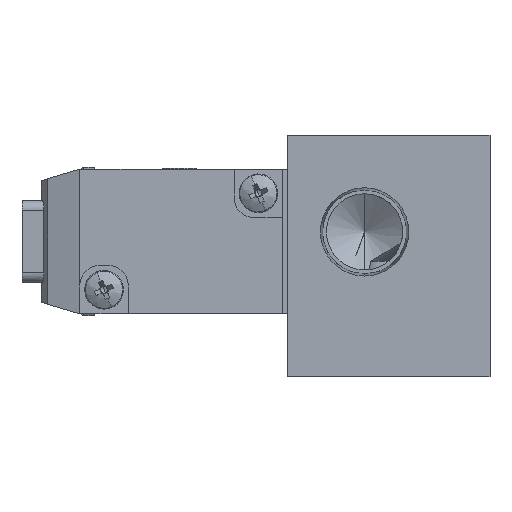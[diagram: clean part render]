
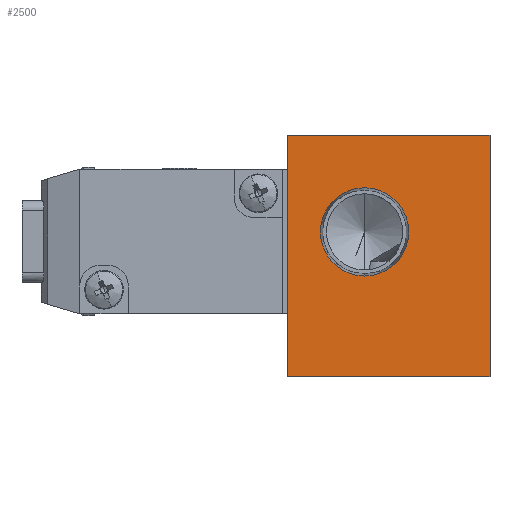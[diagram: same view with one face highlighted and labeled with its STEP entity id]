
A CAD part, left-side view. The second image highlights one B-rep face of the part: STEP entity #2500.
In plain terms, the highlighted planar face has unit normal (-1, 0, 0).
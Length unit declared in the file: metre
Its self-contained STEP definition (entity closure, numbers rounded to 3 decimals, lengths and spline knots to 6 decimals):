
#55 = CARTESIAN_POINT ( 'NONE',  ( -0.019, 0.0025, 0.005574 ) ) ;
#210 = ORIENTED_EDGE ( 'NONE', *, *, #1954, .F. ) ;
#378 = EDGE_CURVE ( 'NONE', #8396, #7512, #826, .T. ) ;
#782 = EDGE_LOOP ( 'NONE', ( #3010, #210, #7785, #7011 ) ) ;
#826 = CIRCLE ( 'NONE', #9155, 0.004574 ) ;
#842 = EDGE_CURVE ( 'NONE', #2309, #962, #9737, .T. ) ;
#962 = VERTEX_POINT ( 'NONE', #7399 ) ;
#1162 = LINE ( 'NONE', #4792, #7352 ) ;
#1568 = EDGE_CURVE ( 'NONE', #7512, #8396, #4120, .T. ) ;
#1683 = VECTOR ( 'NONE', #2644, 1. ) ;
#1822 = FACE_OUTER_BOUND ( 'NONE', #782, .T. ) ;
#1840 = CARTESIAN_POINT ( 'NONE',  ( -0.019, 0.0105, -0.0015 ) ) ;
#1954 = EDGE_CURVE ( 'NONE', #962, #6491, #9722, .T. ) ;
#2184 = CARTESIAN_POINT ( 'NONE',  ( -0.019, 0.0105, 0.011 ) ) ;
#2309 = VERTEX_POINT ( 'NONE', #8112 ) ;
#2353 = ORIENTED_EDGE ( 'NONE', *, *, #378, .T. ) ;
#2370 = ORIENTED_EDGE ( 'NONE', *, *, #1568, .T. ) ;
#2500 = ADVANCED_FACE ( 'NONE', ( #6110, #1822 ), #9950, .T. ) ;
#2644 = DIRECTION ( 'NONE',  ( 0., 0., 1. ) ) ;
#2689 = AXIS2_PLACEMENT_3D ( 'NONE', #10347, #10513, #10502 ) ;
#2744 = VERTEX_POINT ( 'NONE', #2184 ) ;
#3010 = ORIENTED_EDGE ( 'NONE', *, *, #8090, .F. ) ;
#3244 = VECTOR ( 'NONE', #6728, 1. ) ;
#3384 = EDGE_CURVE ( 'NONE', #2309, #2744, #1162, .T. ) ;
#3554 = CARTESIAN_POINT ( 'NONE',  ( -0.019, 0.0025, 0.001 ) ) ;
#3582 = DIRECTION ( 'NONE',  ( 1., 0., 0. ) ) ;
#3591 = DIRECTION ( 'NONE',  ( 0., 0., 1. ) ) ;
#4120 = CIRCLE ( 'NONE', #7024, 0.004574 ) ;
#4792 = CARTESIAN_POINT ( 'NONE',  ( -0.019, 0., 0.011 ) ) ;
#4838 = CARTESIAN_POINT ( 'NONE',  ( -0.019, 0.0105, -0.014 ) ) ;
#5662 = DIRECTION ( 'NONE',  ( 0., 1., 0. ) ) ;
#6110 = FACE_BOUND ( 'NONE', #9988, .T. ) ;
#6244 = LINE ( 'NONE', #1840, #1683 ) ;
#6491 = VERTEX_POINT ( 'NONE', #4838 ) ;
#6691 = CARTESIAN_POINT ( 'NONE',  ( -0.019, -0.0105, -0.0015 ) ) ;
#6728 = DIRECTION ( 'NONE',  ( 0., 0., -1. ) ) ;
#7011 = ORIENTED_EDGE ( 'NONE', *, *, #3384, .T. ) ;
#7024 = AXIS2_PLACEMENT_3D ( 'NONE', #3554, #3582, #3591 ) ;
#7190 = CARTESIAN_POINT ( 'NONE',  ( -0.019, 0.0025, 0.001 ) ) ;
#7290 = CARTESIAN_POINT ( 'NONE',  ( -0.019, 0., -0.014 ) ) ;
#7298 = DIRECTION ( 'NONE',  ( 1., 0., 0. ) ) ;
#7328 = DIRECTION ( 'NONE',  ( 0., 0., 1. ) ) ;
#7352 = VECTOR ( 'NONE', #5662, 1. ) ;
#7396 = DIRECTION ( 'NONE',  ( 0., 1., 0. ) ) ;
#7399 = CARTESIAN_POINT ( 'NONE',  ( -0.019, -0.0105, -0.014 ) ) ;
#7512 = VERTEX_POINT ( 'NONE', #55 ) ;
#7517 = VECTOR ( 'NONE', #7396, 1. ) ;
#7785 = ORIENTED_EDGE ( 'NONE', *, *, #842, .F. ) ;
#8090 = EDGE_CURVE ( 'NONE', #6491, #2744, #6244, .T. ) ;
#8112 = CARTESIAN_POINT ( 'NONE',  ( -0.019, -0.0105, 0.011 ) ) ;
#8396 = VERTEX_POINT ( 'NONE', #8617 ) ;
#8617 = CARTESIAN_POINT ( 'NONE',  ( -0.019, 0.0025, -0.003574 ) ) ;
#9155 = AXIS2_PLACEMENT_3D ( 'NONE', #7190, #7298, #7328 ) ;
#9722 = LINE ( 'NONE', #7290, #7517 ) ;
#9737 = LINE ( 'NONE', #6691, #3244 ) ;
#9950 = PLANE ( 'NONE',  #2689 ) ;
#9988 = EDGE_LOOP ( 'NONE', ( #2370, #2353 ) ) ;
#10347 = CARTESIAN_POINT ( 'NONE',  ( -0.019, -0.0105, -0.014 ) ) ;
#10502 = DIRECTION ( 'NONE',  ( 0., 0., 1. ) ) ;
#10513 = DIRECTION ( 'NONE',  ( -1., 0., 0. ) ) ;
